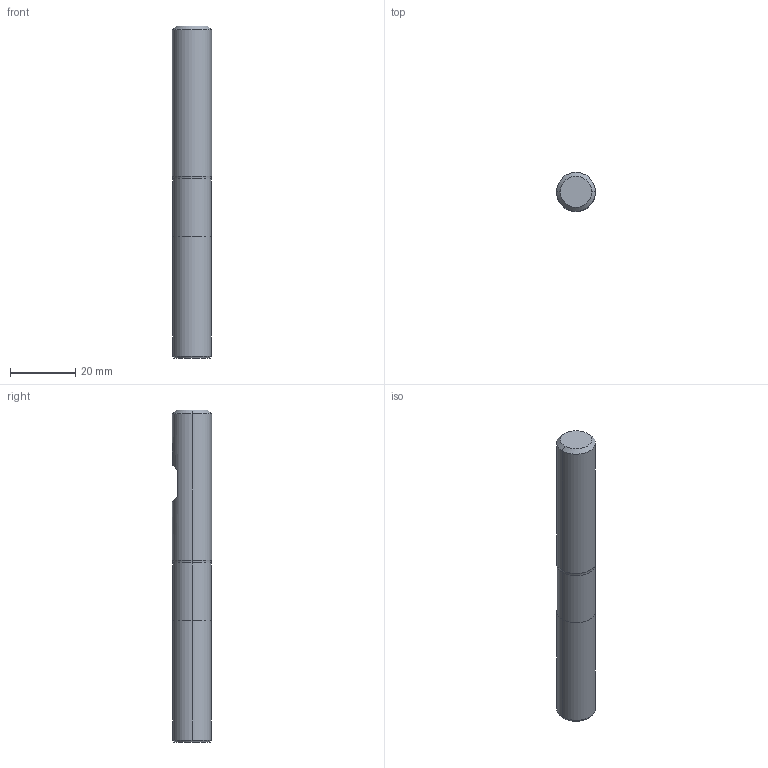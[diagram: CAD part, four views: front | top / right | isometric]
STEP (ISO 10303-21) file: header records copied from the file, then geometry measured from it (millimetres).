
FILE_DESCRIPTION (( 'STEP AP214' ), '1' );
FILE_NAME ('817.118.10_3D-model.step', '2022-02-24T00:10:10', ( '' ), ( '' ), 'SwSTEP 2.0', 'SolidWorks 2020', '' );
FILE_SCHEMA (( 'AUTOMOTIVE_DESIGN' ));
Length unit declared in the file: millimetre
Products named in the file (3): CUT-3D^Baugr179; NOCUT-3D^Baugr179; 817.118.10_3D-model
Assembly tree (2 placements, depth 2):
  817.118.10_3D-model
    CUT-3D^Baugr179
    NOCUT-3D^Baugr179
Bounding box: 12 x 12 x 102 mm (x, y, z)
Volume: 11215.8 mm3; surface area: 4213.7 mm2
Topology: 2 solids, 2 shells, 19 faces, 34 edges, 20 vertices
Faces by surface type: plane 7, cylinder 6, cone 4, torus 2
Entity records: 584 total; most frequent: DIRECTION 104, CARTESIAN_POINT 87, ORIENTED_EDGE 68, AXIS2_PLACEMENT_3D 45, EDGE_CURVE 34, EDGE_LOOP 20, VERTEX_POINT 20, FACE_OUTER_BOUND 19
